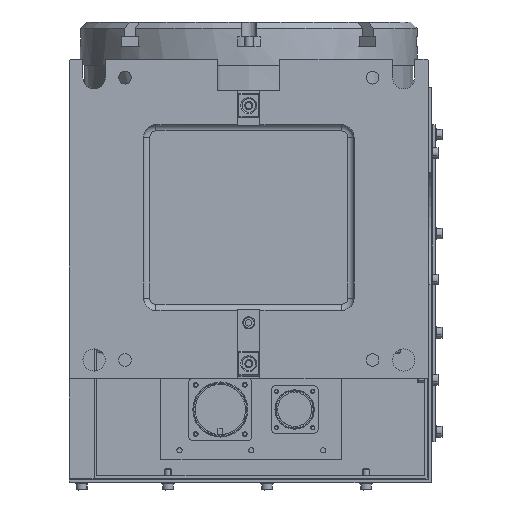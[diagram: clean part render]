
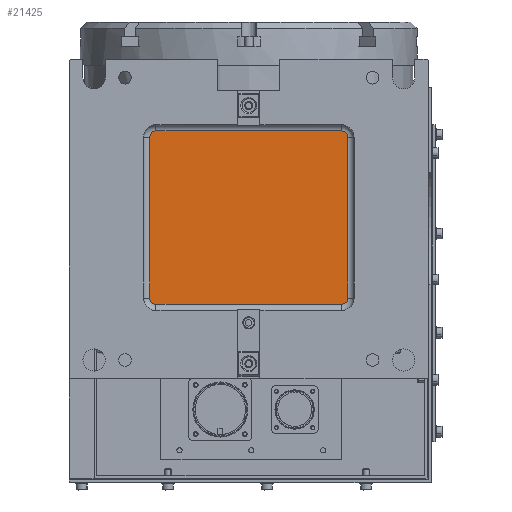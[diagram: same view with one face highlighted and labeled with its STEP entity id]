
A CAD part, front view. The second image highlights one B-rep face of the part: STEP entity #21425.
In plain terms, the highlighted planar face has unit normal (0, -1, 0).
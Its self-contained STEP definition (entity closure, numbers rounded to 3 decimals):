
#1355 = CARTESIAN_POINT ( 'NONE',  ( -85., -142., -177.5 ) ) ;
#2195 = DIRECTION ( 'NONE',  ( 0., -1., 0. ) ) ;
#2271 = VERTEX_POINT ( 'NONE', #24896 ) ;
#2970 = VERTEX_POINT ( 'NONE', #29227 ) ;
#3078 = VECTOR ( 'NONE', #29144, 1000. ) ;
#3263 = EDGE_CURVE ( 'NONE', #2970, #2271, #21377, .T. ) ;
#3350 = EDGE_CURVE ( 'NONE', #17108, #12855, #28850, .T. ) ;
#4032 = CIRCLE ( 'NONE', #29233, 5. ) ;
#4315 = EDGE_CURVE ( 'NONE', #12855, #30932, #16390, .T. ) ;
#4768 = CIRCLE ( 'NONE', #33923, 5. ) ;
#5274 = EDGE_CURVE ( 'NONE', #17060, #10341, #4768, .T. ) ;
#5433 = EDGE_CURVE ( 'NONE', #10341, #2970, #27347, .T. ) ;
#5961 = ORIENTED_EDGE ( 'NONE', *, *, #5433, .T. ) ;
#6094 = AXIS2_PLACEMENT_3D ( 'NONE', #1355, #25229, #11899 ) ;
#6123 = CARTESIAN_POINT ( 'NONE',  ( -85., -142., -172.5 ) ) ;
#7331 = ORIENTED_EDGE ( 'NONE', *, *, #3263, .T. ) ;
#7462 = DIRECTION ( 'NONE',  ( 0., 0., -1. ) ) ;
#7753 = EDGE_LOOP ( 'NONE', ( #29803, #11599, #22961, #17018, #5961, #7331, #32890, #13692 ) ) ;
#8065 = DIRECTION ( 'NONE',  ( 0., -1., 0. ) ) ;
#8608 = EDGE_CURVE ( 'NONE', #16935, #17108, #4032, .T. ) ;
#8949 = LINE ( 'NONE', #21920, #30084 ) ;
#9782 = FACE_OUTER_BOUND ( 'NONE', #7753, .T. ) ;
#10341 = VERTEX_POINT ( 'NONE', #27121 ) ;
#11599 = ORIENTED_EDGE ( 'NONE', *, *, #4315, .T. ) ;
#11899 = DIRECTION ( 'NONE',  ( 0., 0., -1. ) ) ;
#12715 = DIRECTION ( 'NONE',  ( 0., -1., 0. ) ) ;
#12855 = VERTEX_POINT ( 'NONE', #30125 ) ;
#13520 = AXIS2_PLACEMENT_3D ( 'NONE', #18657, #15509, #32171 ) ;
#13692 = ORIENTED_EDGE ( 'NONE', *, *, #8608, .T. ) ;
#13893 = CARTESIAN_POINT ( 'NONE',  ( 75., -142., -32.5 ) ) ;
#15509 = DIRECTION ( 'NONE',  ( 0., -1., 0. ) ) ;
#16323 = VECTOR ( 'NONE', #29717, 1000. ) ;
#16348 = CARTESIAN_POINT ( 'NONE',  ( -80., -142., -167.5 ) ) ;
#16390 = CIRCLE ( 'NONE', #32653, 5. ) ;
#16935 = VERTEX_POINT ( 'NONE', #25332 ) ;
#17018 = ORIENTED_EDGE ( 'NONE', *, *, #5274, .T. ) ;
#17060 = VERTEX_POINT ( 'NONE', #16348 ) ;
#17108 = VERTEX_POINT ( 'NONE', #13893 ) ;
#17329 = PLANE ( 'NONE',  #6094 ) ;
#17641 = CARTESIAN_POINT ( 'NONE',  ( 75., -142., -37.5 ) ) ;
#17814 = CARTESIAN_POINT ( 'NONE',  ( -75., -142., -37.5 ) ) ;
#17820 = DIRECTION ( 'NONE',  ( 0., 0., -1. ) ) ;
#18657 = CARTESIAN_POINT ( 'NONE',  ( 75., -142., -167.5 ) ) ;
#18770 = VECTOR ( 'NONE', #29976, 1000. ) ;
#19524 = CARTESIAN_POINT ( 'NONE',  ( -85., -142., -32.5 ) ) ;
#21377 = CIRCLE ( 'NONE', #13520, 5. ) ;
#21425 = ADVANCED_FACE ( 'NONE', ( #9782 ), #17329, .T. ) ;
#21764 = CARTESIAN_POINT ( 'NONE',  ( -80., -142., -177.5 ) ) ;
#21920 = CARTESIAN_POINT ( 'NONE',  ( 80., -142., -177.5 ) ) ;
#22961 = ORIENTED_EDGE ( 'NONE', *, *, #34410, .T. ) ;
#24207 = CARTESIAN_POINT ( 'NONE',  ( -80., -142., -37.5 ) ) ;
#24224 = LINE ( 'NONE', #21764, #3078 ) ;
#24896 = CARTESIAN_POINT ( 'NONE',  ( 80., -142., -167.5 ) ) ;
#25229 = DIRECTION ( 'NONE',  ( 0., -1., 0. ) ) ;
#25332 = CARTESIAN_POINT ( 'NONE',  ( 80., -142., -37.5 ) ) ;
#26760 = EDGE_CURVE ( 'NONE', #2271, #16935, #8949, .T. ) ;
#27121 = CARTESIAN_POINT ( 'NONE',  ( -75., -142., -172.5 ) ) ;
#27347 = LINE ( 'NONE', #6123, #18770 ) ;
#27699 = DIRECTION ( 'NONE',  ( 0., 0., 1. ) ) ;
#28850 = LINE ( 'NONE', #19524, #16323 ) ;
#29144 = DIRECTION ( 'NONE',  ( 0., 0., -1. ) ) ;
#29227 = CARTESIAN_POINT ( 'NONE',  ( 75., -142., -172.5 ) ) ;
#29233 = AXIS2_PLACEMENT_3D ( 'NONE', #17641, #2195, #17820 ) ;
#29717 = DIRECTION ( 'NONE',  ( -1., 0., 0. ) ) ;
#29803 = ORIENTED_EDGE ( 'NONE', *, *, #3350, .T. ) ;
#29976 = DIRECTION ( 'NONE',  ( 1., 0., 0. ) ) ;
#30084 = VECTOR ( 'NONE', #27699, 1000. ) ;
#30125 = CARTESIAN_POINT ( 'NONE',  ( -75., -142., -32.5 ) ) ;
#30932 = VERTEX_POINT ( 'NONE', #24207 ) ;
#31582 = DIRECTION ( 'NONE',  ( 0., 0., -1. ) ) ;
#31744 = CARTESIAN_POINT ( 'NONE',  ( -75., -142., -167.5 ) ) ;
#32171 = DIRECTION ( 'NONE',  ( 0., 0., -1. ) ) ;
#32653 = AXIS2_PLACEMENT_3D ( 'NONE', #17814, #12715, #7462 ) ;
#32890 = ORIENTED_EDGE ( 'NONE', *, *, #26760, .T. ) ;
#33923 = AXIS2_PLACEMENT_3D ( 'NONE', #31744, #8065, #31582 ) ;
#34410 = EDGE_CURVE ( 'NONE', #30932, #17060, #24224, .T. ) ;
